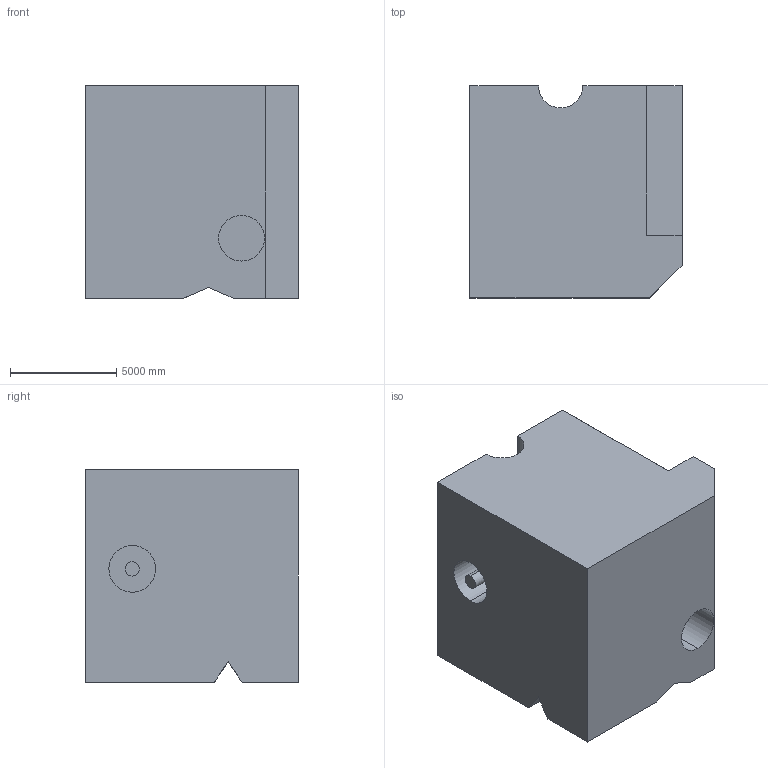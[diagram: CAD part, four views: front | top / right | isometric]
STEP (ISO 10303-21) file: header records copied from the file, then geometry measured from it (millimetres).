
FILE_DESCRIPTION (( 'STEP AP203' ), '1' );
FILE_NAME ('180.STEP', '2022-08-31T15:00:23', ( 'user' ), ( '' ), 'SwSTEP 2.0', 'SolidWorks 2021', '' );
FILE_SCHEMA (( 'CONFIG_CONTROL_DESIGN' ));
Length unit declared in the file: centimetre
Products named in the file (1): 180
Bounding box: 10000 x 10000 x 10000 mm (x, y, z)
Volume: 901600185771.9 mm3; surface area: 675542927.7 mm2
Topology: 1 solids, 1 shells, 36 faces, 90 edges, 60 vertices
Faces by surface type: plane 26, cylinder 10
Entity records: 1150 total; most frequent: CARTESIAN_POINT 193, DIRECTION 181, ORIENTED_EDGE 180, EDGE_CURVE 90, LINE 69, VECTOR 69, VERTEX_POINT 60, AXIS2_PLACEMENT_3D 56
